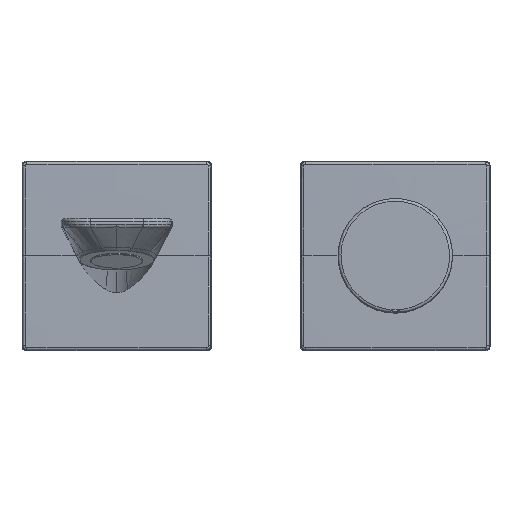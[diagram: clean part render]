
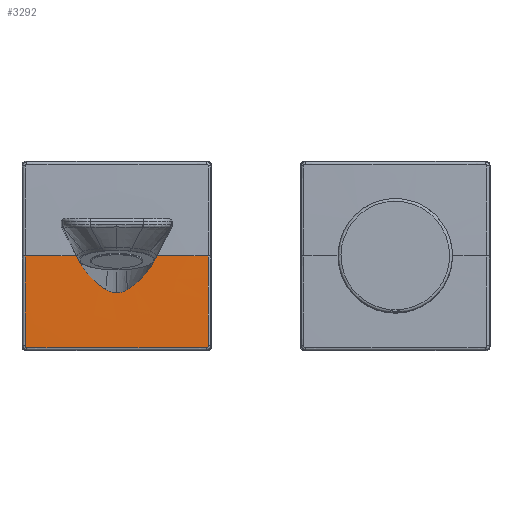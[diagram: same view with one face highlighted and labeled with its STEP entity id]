
A CAD part, top view. The second image highlights one B-rep face of the part: STEP entity #3292.
In plain terms, the highlighted free-form (B-spline) face has degree [3, 3] with [7, 4] control points.
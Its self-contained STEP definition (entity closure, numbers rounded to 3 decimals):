
#2745=CARTESIAN_POINT('',(-132.9,0.,26.971));
#2787=CARTESIAN_POINT('',(-100.,0.,27.003));
#2788=DIRECTION('',(0.,0.,-1.));
#2789=DIRECTION('',(1.,0.,0.));
#2790=AXIS2_PLACEMENT_3D('',#2787,#2788,#2789);
#2792=CARTESIAN_POINT('',(-80.616,0.,-1972.983));
#2793=DIRECTION('',(0.,-1.,0.));
#2794=DIRECTION('',(0.007,0.,1.));
#2795=AXIS2_PLACEMENT_3D('',#2792,#2793,#2794);
#2797=CARTESIAN_POINT('',(-67.092,-32.308,
26.838));
#2798=CARTESIAN_POINT('',(-67.093,-29.778,
26.862));
#2799=CARTESIAN_POINT('',(-67.095,-24.988,
26.9));
#2800=CARTESIAN_POINT('',(-67.097,-18.629,
26.934));
#2801=CARTESIAN_POINT('',(-67.098,-12.49,
26.956));
#2802=CARTESIAN_POINT('',(-67.099,-6.28,
26.969));
#2803=CARTESIAN_POINT('',(-67.1,-2.151,
26.971));
#2804=CARTESIAN_POINT('',(-67.1,0.,26.971));
#2806=CARTESIAN_POINT('',(-67.692,-32.908,
26.838));
#2807=CARTESIAN_POINT('',(-67.611,-32.908,
26.838));
#2808=CARTESIAN_POINT('',(-67.462,-32.878,
26.837));
#2809=CARTESIAN_POINT('',(-67.257,-32.745,
26.836));
#2810=CARTESIAN_POINT('',(-67.123,-32.542,
26.837));
#2811=CARTESIAN_POINT('',(-67.092,-32.39,
26.838));
#2812=CARTESIAN_POINT('',(-67.092,-32.308,
26.838));
#2814=CARTESIAN_POINT('',(-132.308,-32.908,26.838));
#2815=CARTESIAN_POINT('',(-129.912,-32.907,
26.861));
#2816=CARTESIAN_POINT('',(-125.397,-32.905,
26.896));
#2817=CARTESIAN_POINT('',(-119.451,-32.903,
26.93));
#2818=CARTESIAN_POINT('',(-113.842,-32.902,
26.952));
#2819=CARTESIAN_POINT('',(-108.337,-32.901,
26.965));
#2820=CARTESIAN_POINT('',(-102.791,-32.9,
26.972));
#2821=CARTESIAN_POINT('',(-97.208,-32.9,
26.972));
#2822=CARTESIAN_POINT('',(-91.662,-32.901,
26.965));
#2823=CARTESIAN_POINT('',(-86.155,-32.902,
26.952));
#2824=CARTESIAN_POINT('',(-80.547,-32.903,
26.93));
#2825=CARTESIAN_POINT('',(-74.601,-32.905,
26.896));
#2826=CARTESIAN_POINT('',(-70.087,-32.907,
26.861));
#2827=CARTESIAN_POINT('',(-67.692,-32.908,
26.838));
#2829=CARTESIAN_POINT('',(-132.908,-32.308,
26.838));
#2830=CARTESIAN_POINT('',(-132.908,-32.389,
26.838));
#2831=CARTESIAN_POINT('',(-132.878,-32.538,
26.837));
#2832=CARTESIAN_POINT('',(-132.745,-32.743,
26.836));
#2833=CARTESIAN_POINT('',(-132.542,-32.877,
26.837));
#2834=CARTESIAN_POINT('',(-132.39,-32.908,
26.838));
#2835=CARTESIAN_POINT('',(-132.308,-32.908,26.838));
#2837=CARTESIAN_POINT('',(-132.9,0.,26.971));
#2838=CARTESIAN_POINT('',(-132.9,-2.161,
26.971));
#2839=CARTESIAN_POINT('',(-132.901,-6.306,
26.969));
#2840=CARTESIAN_POINT('',(-132.902,-12.531,
26.956));
#2841=CARTESIAN_POINT('',(-132.903,-18.674,
26.934));
#2842=CARTESIAN_POINT('',(-132.905,-25.024,
26.899));
#2843=CARTESIAN_POINT('',(-132.907,-29.793,
26.862));
#2844=CARTESIAN_POINT('',(-132.908,-32.308,
26.838));
#2846=CARTESIAN_POINT('',(-119.384,0.,-1972.983));
#2847=DIRECTION('',(0.,1.,0.));
#2848=DIRECTION('',(-0.007,0.,1.));
#2849=AXIS2_PLACEMENT_3D('',#2846,#2847,#2848);
#3076=VERTEX_POINT('',#2745);
#3078=VERTEX_POINT('',#2844);
#3079=VERTEX_POINT('',#2835);
#3080=VERTEX_POINT('',#2827);
#3081=VERTEX_POINT('',#2812);
#3082=VERTEX_POINT('',#2804);
#3086=CARTESIAN_POINT('',(-111.893,0.,27.003));
#3087=CARTESIAN_POINT('',(-88.107,0.,27.003));
#3088=VERTEX_POINT('',#3086);
#3089=VERTEX_POINT('',#3087);
#3248=CARTESIAN_POINT('',(-88.818,0.704,
27.));
#3249=CARTESIAN_POINT('',(-76.916,1.452,27.049));
#3250=CARTESIAN_POINT('',(-65.015,2.201,26.991));
#3251=CARTESIAN_POINT('',(-53.115,2.95,26.827));
#3252=CARTESIAN_POINT('',(-88.385,-6.178,
27.));
#3253=CARTESIAN_POINT('',(-76.022,-12.753,
27.049));
#3254=CARTESIAN_POINT('',(-63.66,-19.329,
26.991));
#3255=CARTESIAN_POINT('',(-51.299,-25.903,
26.827));
#3256=CARTESIAN_POINT('',(-93.105,-11.205,
27.));
#3257=CARTESIAN_POINT('',(-85.766,-23.129,
27.049));
#3258=CARTESIAN_POINT('',(-78.428,-35.054,
26.991));
#3259=CARTESIAN_POINT('',(-71.09,-46.978,
26.827));
#3260=CARTESIAN_POINT('',(-100.,-11.205,
27.));
#3261=CARTESIAN_POINT('',(-100.,-23.129,
27.049));
#3262=CARTESIAN_POINT('',(-100.,-35.054,
26.991));
#3263=CARTESIAN_POINT('',(-100.,-46.978,
26.827));
#3264=CARTESIAN_POINT('',(-106.895,-11.205,
27.));
#3265=CARTESIAN_POINT('',(-114.234,-23.129,
27.049));
#3266=CARTESIAN_POINT('',(-121.572,-35.054,
26.991));
#3267=CARTESIAN_POINT('',(-128.91,-46.978,
26.827));
#3268=CARTESIAN_POINT('',(-111.615,-6.178,
27.));
#3269=CARTESIAN_POINT('',(-123.978,-12.753,
27.049));
#3270=CARTESIAN_POINT('',(-136.34,-19.329,
26.991));
#3271=CARTESIAN_POINT('',(-148.701,-25.903,
26.827));
#3272=CARTESIAN_POINT('',(-111.182,0.704,
27.));
#3273=CARTESIAN_POINT('',(-123.084,1.452,27.049));
#3274=CARTESIAN_POINT('',(-134.985,2.201,26.991));
#3275=CARTESIAN_POINT('',(-146.885,2.95,26.827));
#3276=(BOUNDED_SURFACE()B_SPLINE_SURFACE(3,3,((#3248,#3249,#3250,#3251),(#3252,
#3253,#3254,#3255),(#3256,#3257,#3258,#3259),(#3260,#3261,#3262,#3263),(#3264,
#3265,#3266,#3267),(#3268,#3269,#3270,#3271),(#3272,#3273,#3274,#3275)),
.UNSPECIFIED.,.F.,.F.,.F.)B_SPLINE_SURFACE_WITH_KNOTS((4,3,4),(4,4),(0.,1.,
2.),(0.,1.),.UNSPECIFIED.)GEOMETRIC_REPRESENTATION_ITEM()RATIONAL_B_SPLINE_SURFACE(((1.187,1.187,1.187,1.187),(
0.938,0.938,0.938,0.938),(
0.938,0.938,0.938,0.938),(
1.187,1.187,1.187,1.187),(
0.938,0.938,0.938,0.938),(
0.938,0.938,0.938,0.938),(
1.187,1.187,1.187,1.187)))REPRESENTATION_ITEM('')SURFACE());
#3277=ORIENTED_EDGE('',*,*,#3243,.F.);
#3278=ORIENTED_EDGE('',*,*,#3232,.F.);
#3280=ORIENTED_EDGE('',*,*,#3279,.F.);
#3282=ORIENTED_EDGE('',*,*,#3281,.F.);
#3284=ORIENTED_EDGE('',*,*,#3283,.F.);
#3286=ORIENTED_EDGE('',*,*,#3285,.F.);
#3288=ORIENTED_EDGE('',*,*,#3287,.F.);
#3289=ORIENTED_EDGE('',*,*,#3221,.T.);
#3290=EDGE_LOOP('',(#3277,#3278,#3280,#3282,#3284,#3286,#3288,#3289));
#3291=FACE_OUTER_BOUND('',#3290,.F.);
#3292=ADVANCED_FACE('',(#3291),#3276,.T.);
#2791=CIRCLE('',#2790,11.893);
#2796=CIRCLE('',#2795,2000.);
#2805=B_SPLINE_CURVE_WITH_KNOTS('',3,(#2797,#2798,#2799,#2800,#2801,#2802,#2803,
#2804),.UNSPECIFIED.,.F.,.F.,(4,1,1,1,1,4),(0.,0.2,0.4,0.6,0.8,1.),
.UNSPECIFIED.);
#2813=B_SPLINE_CURVE_WITH_KNOTS('',3,(#2806,#2807,#2808,#2809,#2810,#2811,
#2812),.UNSPECIFIED.,.F.,.F.,(4,1,1,1,4),(0.,0.25,0.5,0.75,1.),
.UNSPECIFIED.);
#2828=B_SPLINE_CURVE_WITH_KNOTS('',3,(#2814,#2815,#2816,#2817,#2818,#2819,#2820,
#2821,#2822,#2823,#2824,#2825,#2826,#2827),.UNSPECIFIED.,.F.,.F.,(4,1,1,1,1,1,1,
1,1,1,1,4),(0.,0.091,0.182,0.273,
0.364,0.455,0.545,0.636,
0.727,0.818,0.909,1.),.UNSPECIFIED.);
#2836=B_SPLINE_CURVE_WITH_KNOTS('',3,(#2829,#2830,#2831,#2832,#2833,#2834,
#2835),.UNSPECIFIED.,.F.,.F.,(4,1,1,1,4),(0.,0.25,0.5,0.75,1.),
.UNSPECIFIED.);
#2845=B_SPLINE_CURVE_WITH_KNOTS('',3,(#2837,#2838,#2839,#2840,#2841,#2842,#2843,
#2844),.UNSPECIFIED.,.F.,.F.,(4,1,1,1,1,4),(0.,0.2,0.4,0.6,0.8,1.),
.UNSPECIFIED.);
#2850=CIRCLE('',#2849,2000.);
#3221=EDGE_CURVE('',#3076,#3088,#2850,.T.);
#3232=EDGE_CURVE('',#3082,#3089,#2796,.T.);
#3243=EDGE_CURVE('',#3089,#3088,#2791,.T.);
#3279=EDGE_CURVE('',#3081,#3082,#2805,.T.);
#3281=EDGE_CURVE('',#3080,#3081,#2813,.T.);
#3283=EDGE_CURVE('',#3079,#3080,#2828,.T.);
#3285=EDGE_CURVE('',#3078,#3079,#2836,.T.);
#3287=EDGE_CURVE('',#3076,#3078,#2845,.T.);
